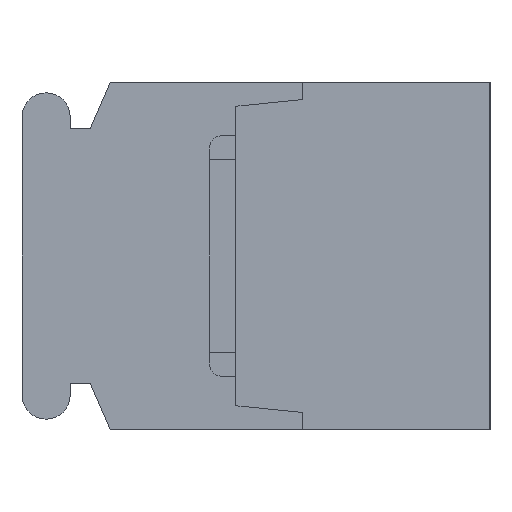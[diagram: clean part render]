
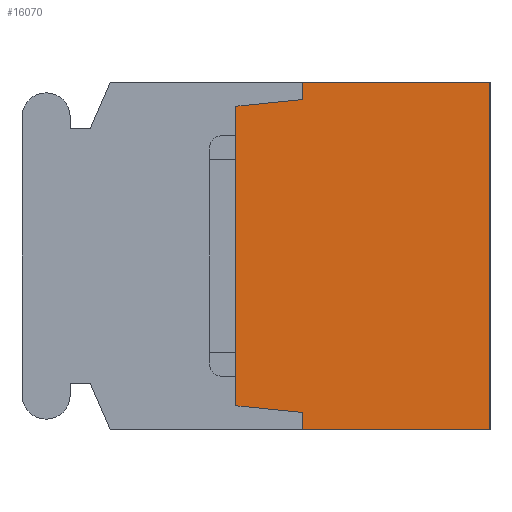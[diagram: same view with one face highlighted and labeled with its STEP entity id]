
A CAD part, left-side view. The second image highlights one B-rep face of the part: STEP entity #16070.
In plain terms, the highlighted planar face has unit normal (-1, 0, 0).
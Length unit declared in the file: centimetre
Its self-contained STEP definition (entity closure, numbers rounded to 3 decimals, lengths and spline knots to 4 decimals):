
#1176=VECTOR('',#17857,1.);
#1205=VECTOR('',#17887,1.);
#1263=VECTOR('',#17961,1.);
#2000=VECTOR('',#19846,1.);
#2001=VECTOR('',#19847,1.);
#2002=VECTOR('',#19848,1.);
#2003=VECTOR('',#19849,1.);
#2004=VECTOR('',#19850,1.);
#2954=LINE('',#22366,#1176);
#2983=LINE('',#22423,#1205);
#3041=LINE('',#22542,#1263);
#3778=LINE('',#25012,#2000);
#3779=LINE('',#25014,#2001);
#3780=LINE('',#25016,#2002);
#3781=LINE('',#25018,#2003);
#3782=LINE('',#25020,#2004);
#4732=VERTEX_POINT('',#22363);
#4733=VERTEX_POINT('',#22365);
#4761=VERTEX_POINT('',#22424);
#4809=VERTEX_POINT('',#22541);
#5520=VERTEX_POINT('',#25013);
#5521=VERTEX_POINT('',#25015);
#5522=VERTEX_POINT('',#25017);
#5523=VERTEX_POINT('',#25019);
#6862=EDGE_CURVE('',#4733,#4732,#2954,.T.);
#6891=EDGE_CURVE('',#4732,#4761,#2983,.T.);
#6951=EDGE_CURVE('',#4809,#4733,#3041,.T.);
#8042=EDGE_CURVE('',#5520,#4809,#3778,.T.);
#8043=EDGE_CURVE('',#5521,#5520,#3779,.T.);
#8044=EDGE_CURVE('',#5522,#5521,#3780,.T.);
#8045=EDGE_CURVE('',#5523,#5522,#3781,.T.);
#8046=EDGE_CURVE('',#4761,#5523,#3782,.T.);
#12332=ORIENTED_EDGE('',*,*,#6862,.F.);
#12333=ORIENTED_EDGE('',*,*,#6951,.F.);
#12334=ORIENTED_EDGE('',*,*,#8042,.F.);
#12335=ORIENTED_EDGE('',*,*,#8043,.F.);
#12336=ORIENTED_EDGE('',*,*,#8044,.F.);
#12337=ORIENTED_EDGE('',*,*,#8045,.F.);
#12338=ORIENTED_EDGE('',*,*,#8046,.F.);
#12339=ORIENTED_EDGE('',*,*,#6891,.F.);
#14148=EDGE_LOOP('',(#12332,#12333,#12334,#12335,#12336,#12337,#12338,#12339));
#15156=FACE_BOUND('',#14148,.T.);
#16070=ADVANCED_FACE('',(#15156),#16797,.F.);
#16797=PLANE('',#27520);
#17857=DIRECTION('',(0.,0.,-1.));
#17887=DIRECTION('',(0.,1.,0.));
#17961=DIRECTION('',(0.,-1.,0.));
#19845=DIRECTION('',(1.,0.,0.));
#19846=DIRECTION('',(0.,0.,1.));
#19847=DIRECTION('',(0.,-0.995,0.1));
#19848=DIRECTION('',(0.,0.,1.));
#19849=DIRECTION('',(0.,0.995,0.1));
#19850=DIRECTION('',(0.,0.,1.));
#22363=CARTESIAN_POINT('',(-1.84,0.,-0.65));
#22365=CARTESIAN_POINT('',(-1.84,0.,0.65));
#22366=CARTESIAN_POINT('',(-1.84,0.,0.65));
#22423=CARTESIAN_POINT('',(-1.84,0.,-0.65));
#22424=CARTESIAN_POINT('',(-1.84,0.7,-0.65));
#22541=CARTESIAN_POINT('',(-1.84,0.7,0.65));
#22542=CARTESIAN_POINT('',(-1.84,0.7,0.65));
#25011=CARTESIAN_POINT('',(-1.84,0.4626,0.));
#25012=CARTESIAN_POINT('',(-1.84,0.7,0.585));
#25013=CARTESIAN_POINT('',(-1.84,0.7,0.585));
#25014=CARTESIAN_POINT('',(-1.84,0.95,0.56));
#25015=CARTESIAN_POINT('',(-1.84,0.95,0.56));
#25016=CARTESIAN_POINT('',(-1.84,0.95,-0.56));
#25017=CARTESIAN_POINT('',(-1.84,0.95,-0.56));
#25018=CARTESIAN_POINT('',(-1.84,0.7,-0.585));
#25019=CARTESIAN_POINT('',(-1.84,0.7,-0.585));
#25020=CARTESIAN_POINT('',(-1.84,0.7,-0.65));
#27520=AXIS2_PLACEMENT_3D('',#25011,#19845,$);
